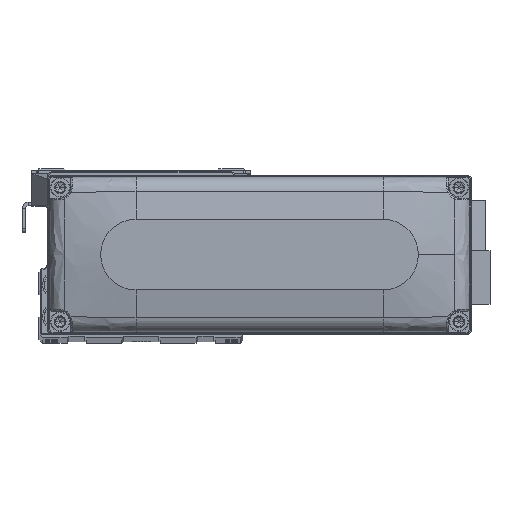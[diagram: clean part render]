
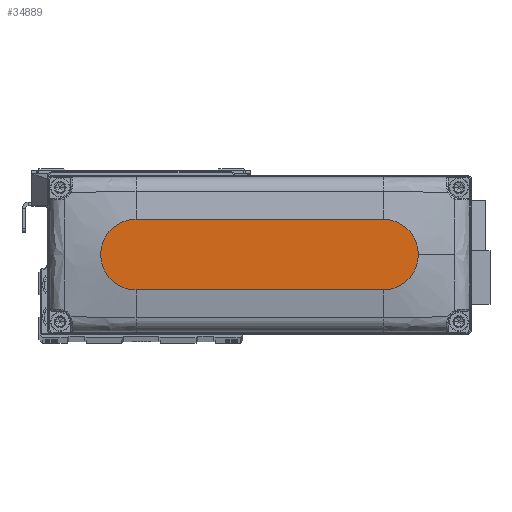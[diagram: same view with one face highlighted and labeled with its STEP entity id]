
A CAD part, top view. The second image highlights one B-rep face of the part: STEP entity #34889.
In plain terms, the highlighted planar face has unit normal (0, 0, 1).
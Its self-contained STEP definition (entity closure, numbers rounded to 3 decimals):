
#641 = CARTESIAN_POINT ( 'NONE',  ( 0., 0., 28. ) ) ;
#880 = VERTEX_POINT ( 'NONE', #39667 ) ;
#1119 = LINE ( 'NONE', #15103, #8966 ) ;
#3740 = VERTEX_POINT ( 'NONE', #15109 ) ;
#7873 = CARTESIAN_POINT ( 'NONE',  ( 35., 0., 28. ) ) ;
#8966 = VECTOR ( 'NONE', #29118, 1000. ) ;
#9216 = CIRCLE ( 'NONE', #34899, 10. ) ;
#11210 = EDGE_CURVE ( 'NONE', #14781, #3740, #44026, .T. ) ;
#13289 = CARTESIAN_POINT ( 'NONE',  ( 35., 0., 28. ) ) ;
#13653 = VERTEX_POINT ( 'NONE', #31849 ) ;
#14416 = LINE ( 'NONE', #28444, #22793 ) ;
#14610 = DIRECTION ( 'NONE',  ( 0., 0., 1. ) ) ;
#14781 = VERTEX_POINT ( 'NONE', #16986 ) ;
#15103 = CARTESIAN_POINT ( 'NONE',  ( -35., 10., 28. ) ) ;
#15109 = CARTESIAN_POINT ( 'NONE',  ( 45., 0., 28. ) ) ;
#15384 = CIRCLE ( 'NONE', #41055, 10. ) ;
#16707 = EDGE_CURVE ( 'NONE', #880, #14781, #14416, .T. ) ;
#16986 = CARTESIAN_POINT ( 'NONE',  ( 35., -10., 28. ) ) ;
#17125 = EDGE_LOOP ( 'NONE', ( #38660, #18035, #25081, #31757, #33859 ) ) ;
#17408 = CARTESIAN_POINT ( 'NONE',  ( -35., 0., 28. ) ) ;
#18035 = ORIENTED_EDGE ( 'NONE', *, *, #32484, .T. ) ;
#18074 = FACE_OUTER_BOUND ( 'NONE', #17125, .T. ) ;
#20188 = DIRECTION ( 'NONE',  ( 1., 0., 0. ) ) ;
#21873 = DIRECTION ( 'NONE',  ( 0., 0., 1. ) ) ;
#22793 = VECTOR ( 'NONE', #42442, 1000. ) ;
#24215 = AXIS2_PLACEMENT_3D ( 'NONE', #7873, #21873, #35879 ) ;
#25081 = ORIENTED_EDGE ( 'NONE', *, *, #16707, .T. ) ;
#27309 = DIRECTION ( 'NONE',  ( 0., 0., 1. ) ) ;
#28444 = CARTESIAN_POINT ( 'NONE',  ( -35., -10., 28. ) ) ;
#28644 = DIRECTION ( 'NONE',  ( 1., 0., 0. ) ) ;
#29118 = DIRECTION ( 'NONE',  ( -1., 0., 0. ) ) ;
#29617 = CARTESIAN_POINT ( 'NONE',  ( -35., 10., 28. ) ) ;
#31412 = DIRECTION ( 'NONE',  ( 0., 0., 1. ) ) ;
#31757 = ORIENTED_EDGE ( 'NONE', *, *, #11210, .T. ) ;
#31849 = CARTESIAN_POINT ( 'NONE',  ( 35., 10., 28. ) ) ;
#32083 = PLANE ( 'NONE',  #36764 ) ;
#32484 = EDGE_CURVE ( 'NONE', #42909, #880, #9216, .T. ) ;
#33859 = ORIENTED_EDGE ( 'NONE', *, *, #40537, .T. ) ;
#34889 = ADVANCED_FACE ( 'NONE', ( #18074 ), #32083, .T. ) ;
#34899 = AXIS2_PLACEMENT_3D ( 'NONE', #17408, #31412, #20188 ) ;
#35879 = DIRECTION ( 'NONE',  ( 1., 0., 0. ) ) ;
#36764 = AXIS2_PLACEMENT_3D ( 'NONE', #641, #14610, #28644 ) ;
#38660 = ORIENTED_EDGE ( 'NONE', *, *, #44383, .T. ) ;
#39667 = CARTESIAN_POINT ( 'NONE',  ( -35., -10., 28. ) ) ;
#40537 = EDGE_CURVE ( 'NONE', #3740, #13653, #15384, .T. ) ;
#41055 = AXIS2_PLACEMENT_3D ( 'NONE', #13289, #27309, #41324 ) ;
#41324 = DIRECTION ( 'NONE',  ( 1., 0., 0. ) ) ;
#42442 = DIRECTION ( 'NONE',  ( 1., 0., 0. ) ) ;
#42909 = VERTEX_POINT ( 'NONE', #29617 ) ;
#44026 = CIRCLE ( 'NONE', #24215, 10. ) ;
#44383 = EDGE_CURVE ( 'NONE', #13653, #42909, #1119, .T. ) ;
